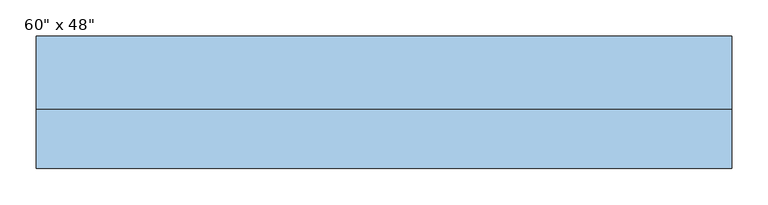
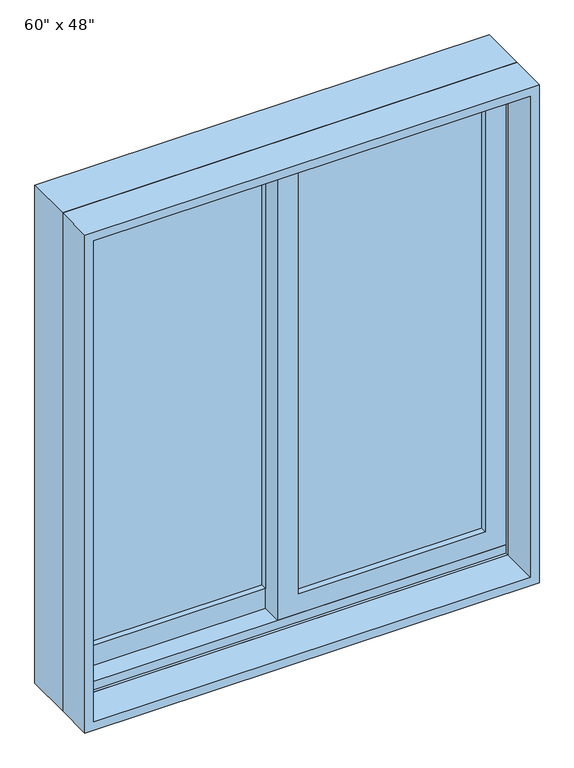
"""IFC4 building model written with IfcOpenShell, lengths in millimetres: window geometry."""

from ifc_helpers import new_model, si_unit, frame, origin, place, context, project, spatial, polyline, outline, extrude, faceted_brep, source, transform, mapped, element, save


def window_61f38fd2(model_context):
    return source(origin(), model_context, "Body", "SolidModel", [
        extrude(outline(polyline([(933.45, -463.55), (933.45, 22.225), (2012.95, 22.225), (2012.95, -463.55), (933.45, -463.55)]), holes=[polyline([(1968.5, -22.225), (996.95, -22.225), (996.95, -419.1), (1968.5, -419.1), (1968.5, -22.225)])]), frame((0.0, 46.99, 0.0), z_axis=(0.0, 1.0, 0.0), x_axis=(0.0, 0.0, 1.0)), (0.0, 0.0, 1.0), 44.45),
        extrude(outline(polyline([(952.5, 463.55), (2012.95, 463.55), (2012.95, -22.225), (952.5, -22.225), (952.5, 463.55)]), holes=[polyline([(996.95, 22.225), (1968.5, 22.225), (1968.5, 419.1), (996.95, 419.1), (996.95, 22.225)])]), frame((0.0, 2.54, 0.0), z_axis=(0.0, 1.0, 0.0), x_axis=(0.0, 0.0, 1.0)), (0.0, 0.0, 1.0), 44.45),
        faceted_brep([(-482.6, -3.81, 914.4), (-482.6, 97.79, 914.4), (482.6, 97.79, 914.4), (482.6, -3.81, 914.4), (-441.6778905, 97.79, 1991.0778905), (-441.6778905, 91.44, 1991.0778905), (-441.6778905, 91.44, 933.45), (-441.6778905, 97.79, 933.45), (441.6778905, 91.44, 1991.0778905), (441.6778905, 91.44, 933.45), (463.55, 91.44, 933.45), (463.55, 91.44, 2012.95), (-463.55, 91.44, 2012.95), (-463.55, 91.44, 933.45), (-463.55, -3.81, 2012.95), (-463.55, -3.81, 933.45), (-463.55, 2.54, 933.45), (-463.55, 2.54, 952.5), (-463.55, 46.99, 952.5), (-463.55, 46.99, 933.45), (482.6, -3.81, 2032.0), (-482.6, -3.81, 2032.0), (463.55, -3.81, 2012.95), (463.55, -3.81, 933.45), (-482.6, 97.79, 2032.0), (482.6, 97.79, 2032.0), (441.6778905, 97.79, 933.45), (441.6778905, 97.79, 1991.0778905), (463.55, 46.99, 933.45), (463.55, 46.99, 952.5), (463.55, 2.54, 952.5), (463.55, 2.54, 933.45)], [[[0, 1, 2, 3]], [[4, 5, 6, 7]], [[5, 8, 9, 10, 11, 12, 13, 6]], [[12, 14, 15, 16, 17, 18, 19, 13]], [[0, 3, 20, 21], [22, 23, 15, 14]], [[24, 1, 0, 21]], [[2, 1, 24, 25], [4, 7, 26, 27]], [[5, 4, 27, 8]], [[12, 11, 22, 14]], [[21, 20, 25, 24]], [[8, 27, 26, 9]], [[22, 11, 10, 28, 29, 30, 31, 23]], [[20, 3, 2, 25]], [[26, 7, 6, 13, 19, 28, 10, 9]], [[28, 19, 18, 29]], [[29, 18, 17, 30]], [[30, 17, 16, 31]], [[15, 23, 31, 16]]]),
        extrude(outline(polyline([(2032.0, -482.6), (914.4, -482.6), (914.4, 482.6), (2032.0, 482.6), (2032.0, -482.6)]), holes=[polyline([(2012.95, 463.55), (933.45, 463.55), (933.45, -463.55), (2012.95, -463.55), (2012.95, 463.55)])]), frame((0.0, -86.36, 0.0), z_axis=(0.0, 1.0, 0.0), x_axis=(0.0, 0.0, 1.0)), (0.0, 0.0, 1.0), 82.55),
        extrude(outline(polyline([(419.1, 34.29), (419.1, 27.94), (22.225, 27.94), (22.225, 34.29), (419.1, 34.29)])), frame((0.0, 0.0, 996.95), z_axis=(0.0, 0.0, 1.0), x_axis=(1.0, 0.0, 0.0)), (0.0, 0.0, 1.0), 971.55),
        extrude(outline(polyline([(419.1, 21.59), (419.1, 15.24), (22.225, 15.24), (22.225, 21.59), (419.1, 21.59)])), frame((0.0, 0.0, 996.95), z_axis=(0.0, 0.0, 1.0), x_axis=(1.0, 0.0, 0.0)), (0.0, 0.0, 1.0), 971.55),
        extrude(outline(polyline([(-22.225, 78.74), (-22.225, 72.39), (-419.1, 72.39), (-419.1, 78.74), (-22.225, 78.74)])), frame((0.0, 0.0, 996.95), z_axis=(0.0, 0.0, 1.0), x_axis=(1.0, 0.0, 0.0)), (0.0, 0.0, 1.0), 971.55),
        extrude(outline(polyline([(-22.225, 66.04), (-22.225, 59.69), (-419.1, 59.69), (-419.1, 66.04), (-22.225, 66.04)])), frame((0.0, 0.0, 996.95), z_axis=(0.0, 0.0, 1.0), x_axis=(1.0, 0.0, 0.0)), (0.0, 0.0, 1.0), 971.55),
    ])


if __name__ == "__main__":
    model = new_model("IFC4")
    model_context = context("Model", 3, world=origin())
    ifc_project = project(units=[si_unit("LENGTHUNIT", "METRE", prefix="MILLI")], contexts=[model_context])
    site = spatial("IfcSite", under=ifc_project)
    building = spatial("IfcBuilding", under=site)
    placement = place(None, origin())
    window_shape = window_61f38fd2(model_context)
    element("IfcWindow", 1, ObjectType="Planitar-Sliding-Double : 60\" x 48\"", at=placement, inside=building, context=model_context, shape_type="MappedRepresentation", body=[
        mapped(window_shape, transform((0.0, 0.0, 0.0), x_axis=(1.0, 0.0, 0.0), y_axis=(0.0, 1.0, 0.0), z_axis=(0.0, 0.0, 1.0))),
    ])
    save(model, "model.ifc")
